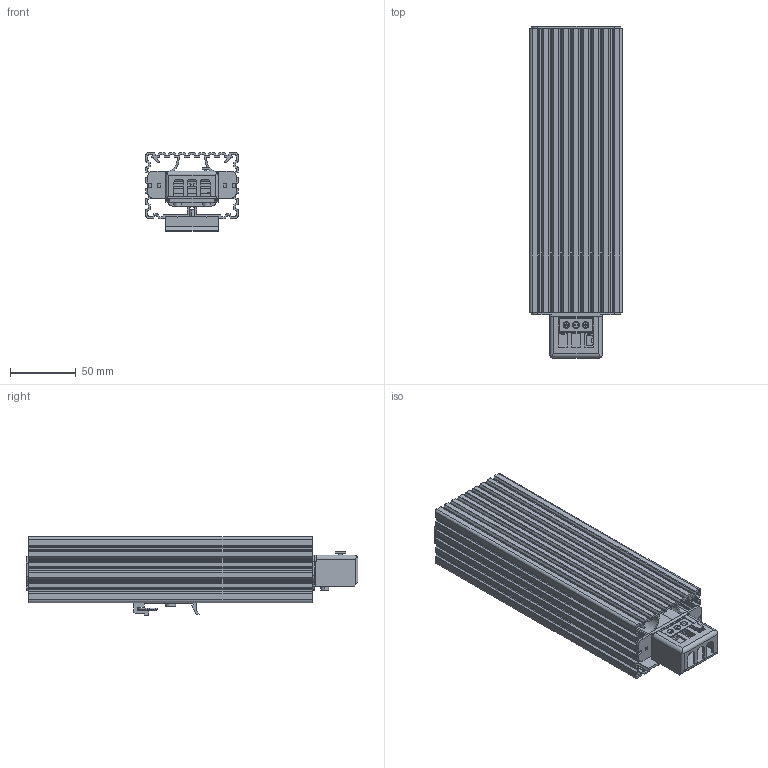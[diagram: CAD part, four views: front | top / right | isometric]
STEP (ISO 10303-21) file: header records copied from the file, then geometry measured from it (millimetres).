
FILE_DESCRIPTION (( 'STEP AP214' ), '1' );
FILE_NAME ('FLH 150.STEP', '2011-04-13T10:13:40', ( ' ' ), ( ' ' ), 'SwSTEP 2.0', 'SolidWorks 2010', '' );
FILE_SCHEMA (( 'AUTOMOTIVE_DESIGN' ));
Length unit declared in the file: millimetre
Products named in the file (16): Imported13; Imported12; Imported4; Imported5; Imported7; Einschubprofil 02060004x_020600043 - 215mm; Imported2; Imported11; Imported3; Imported14; Imported15; Imported16; Imported17; Hauptprofil 02060004x_020600046 - 215mm; Imported; FLH 150
Assembly tree (15 placements, depth 2):
  FLH 150
    Hauptprofil 02060004x_020600046 - 215mm
    Imported15
    Imported2
    Imported5
    Imported11
    Imported17
    Imported12
    Einschubprofil 02060004x_020600043 - 215mm
    Imported16
    Imported3
    Imported
    Imported14
    Imported4
    Imported13
    Imported7
Bounding box: 70 x 251.75 x 59.7 mm (x, y, z)
Volume: 233792.1 mm3; surface area: 273364.1 mm2
Topology: 14 solids, 17 shells, 1260 faces, 3560 edges, 2346 vertices
Faces by surface type: plane 791, cylinder 405, bspline 64
Entity records: 48928 total; most frequent: CARTESIAN_POINT 15287, ORIENTED_EDGE 7108, DIRECTION 6693, EDGE_CURVE 3560, VECTOR 2549, LINE 2549, VERTEX_POINT 2346, AXIS2_PLACEMENT_3D 2072
